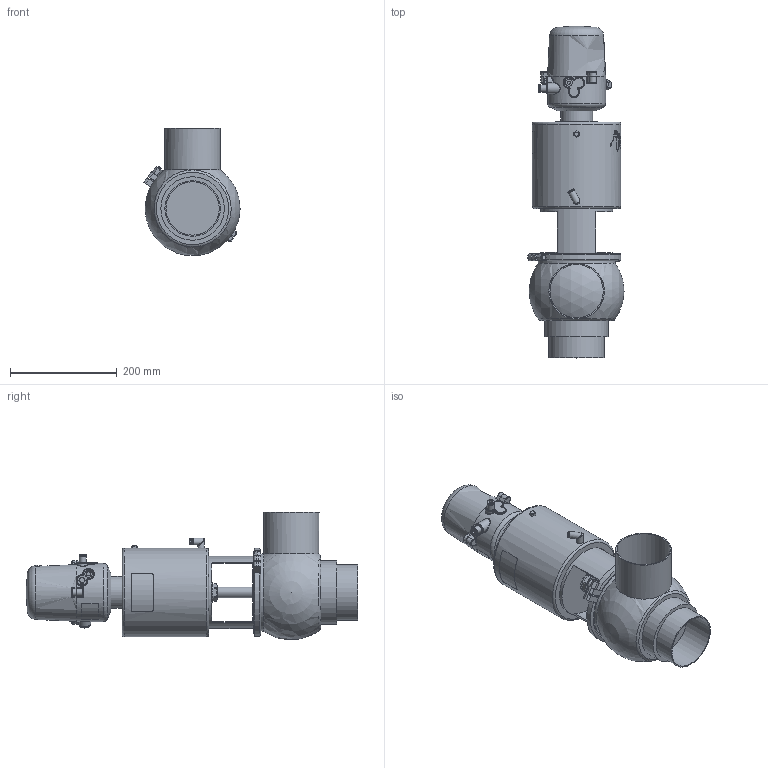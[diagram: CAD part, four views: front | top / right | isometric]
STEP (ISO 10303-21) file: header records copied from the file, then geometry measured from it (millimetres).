
FILE_DESCRIPTION (( 'STEP AP214' ), '1' );
FILE_NAME ('INNOVA N L W DIN 100 T4 AS NC & C-TOP S_10.240.16.0055.STEP', '2024-08-06T08:01:48', ( '' ), ( '' ), 'SwSTEP 2.0', 'SolidWorks 2023', '' );
FILE_SCHEMA (( 'AUTOMOTIVE_DESIGN' ));
Length unit declared in the file: millimetre
Products named in the file (7): 10.240.15.0010_DN 100; 10.240.15.0014_T4 AS P0; 10.240.15.0017_Estàndard; 10.426.15.0001_C-TOP S - 1 EV; 10.240.15.0001_DN 100; 10.240.15.0002_DIN 100; INNOVA N L W DIN 100 T4 AS NC & C-TOP S_10.240.16.0055
Assembly tree (6 placements, depth 2):
  INNOVA N L W DIN 100 T4 AS NC & C-TOP S_10.240.16.0055
    10.240.15.0002_DIN 100
    10.240.15.0010_DN 100
    10.240.15.0014_T4 AS P0
    10.240.15.0017_Estàndard
    10.426.15.0001_C-TOP S - 1 EV
    10.240.15.0001_DN 100
Bounding box: 180.26 x 622 x 238.24 mm (x, y, z)
Volume: 8096211.8 mm3; surface area: 538611.3 mm2
Topology: 6 solids, 6 shells, 1099 faces, 2646 edges, 1765 vertices
Faces by surface type: plane 375, cylinder 330, cone 191, bspline 160, torus 37, sphere 6
Full cylindrical faces by diameter (mm): 0.371 x17, 0.512 x16, 0.658 x16, 0.795 x16, 0.94 x15, 1.098 x15, 1.241 x13, 1.382 x13, 1.523 x11, 1.669 x10, 2.201 x1, 4 x2, 5.5 x2, 6 x2, 6.15 x1, 8 x4, 8.5 x1, 10 x1, 10.5 x1, 11 x2, 12.5 x3, 13 x2, 13.5 x2, 16 x1, 17 x3, 20 x3, 20.5 x1, 22 x2, 31 x1, 34.5 x3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
Entity records: 57767 total; most frequent: CARTESIAN_POINT 27812, ORIENTED_EDGE 4490, DIRECTION 3595, EDGE_CURVE 2245, VERTEX_POINT 1594, EDGE_LOOP 1545, AXIS2_PLACEMENT_3D 1469, FACE_OUTER_BOUND 1310
